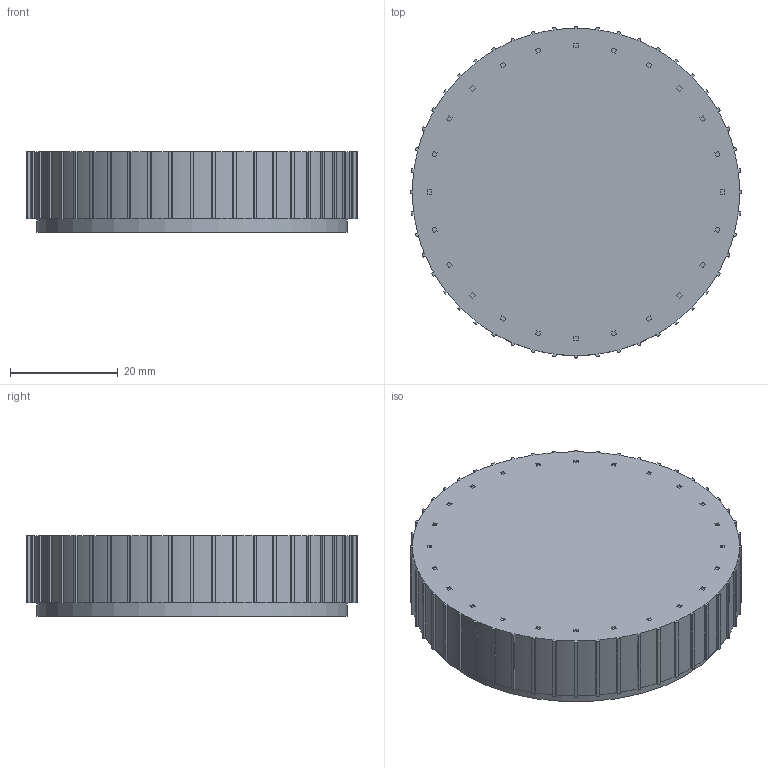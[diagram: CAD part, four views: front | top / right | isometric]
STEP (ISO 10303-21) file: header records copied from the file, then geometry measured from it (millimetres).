
FILE_DESCRIPTION(('Open CASCADE Model'),'2;1');
FILE_NAME('Open CASCADE Shape Model','2026-11-13T04:59:58',('Author'),( 'Open CASCADE'),'Open CASCADE STEP processor 7.9','Open CASCADE 7.9' ,'Unknown');
FILE_SCHEMA(('AUTOMOTIVE_DESIGN { 1 0 10303 214 1 1 1 1 }'));
Length unit declared in the file: millimetre
Products named in the file (1): Open CASCADE STEP translator 7.9 2
Bounding box: 61.6 x 61.6 x 15 mm (x, y, z)
Volume: 14974.9 mm3; surface area: 11678.8 mm2
Topology: 1 solids, 1 shells, 334 faces, 909 edges, 606 vertices
Faces by surface type: plane 207, cylinder 127
Full cylindrical faces by diameter (mm): 50 x1, 51.95 x1, 57.6 x1
Entity records: 22240 total; most frequent: CARTESIAN_POINT 4488, DIRECTION 3201, LINE 1843, VECTOR 1843, ORIENTED_EDGE 1818, PCURVE 1818, DEFINITIONAL_REPRESENTATION 1818, EDGE_CURVE 909
